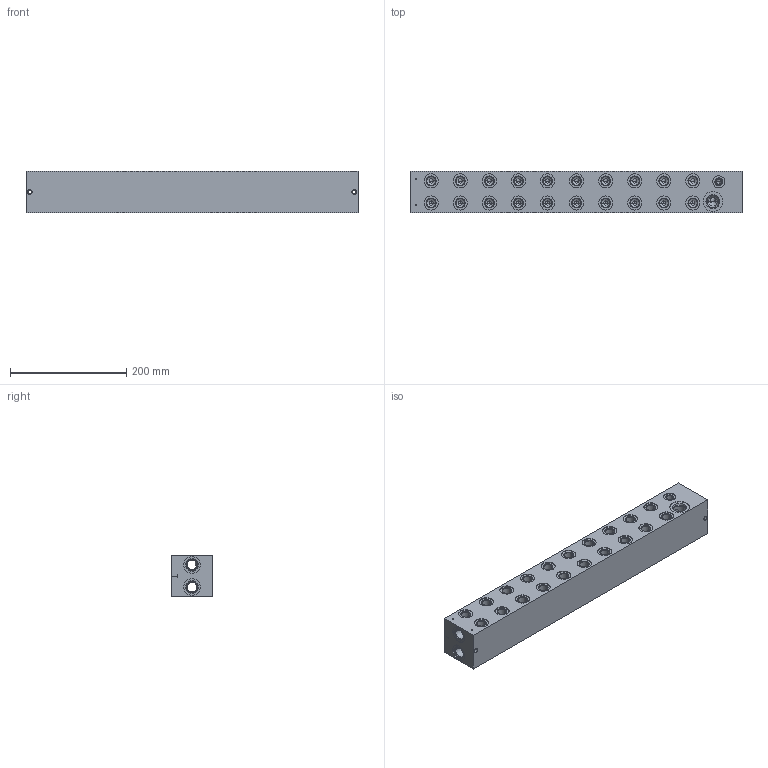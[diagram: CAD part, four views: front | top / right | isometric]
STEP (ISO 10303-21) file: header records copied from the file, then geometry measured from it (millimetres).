
FILE_DESCRIPTION((''),'2;1');
FILE_NAME('1000060223','2024-02-06T',('l.soukupova'),(''),'PRO/ENGINEER BY PARAMETRIC TECHNOLOGY CORPORATION, 2015440','PRO/ENGINEER BY PARAMETRIC TECHNOLOGY CORPORATION, 2015440','');
FILE_SCHEMA(('AUTOMOTIVE_DESIGN { 1 0 10303 214 1 1 1 1 }'));
Length unit declared in the file: millimetre
Products named in the file (1): 1000060223
Bounding box: 571 x 71 x 71 mm (x, y, z)
Volume: 2425416.3 mm3; surface area: 332798.2 mm2
Topology: 1 solids, 74 shells, 868 faces, 2966 edges, 2518 vertices
Faces by surface type: cylinder 500, cone 260, plane 108
Entity records: 49444 total; most frequent: CARTESIAN_POINT 15031, DIRECTION 5466, ORIENTED_EDGE 3878, PRESENTATION_STYLE_ASSIGNMENT 3065, STYLED_ITEM 3059, CURVE_STYLE 2985, EDGE_CURVE 2085, AXIS2_PLACEMENT_3D 1977
